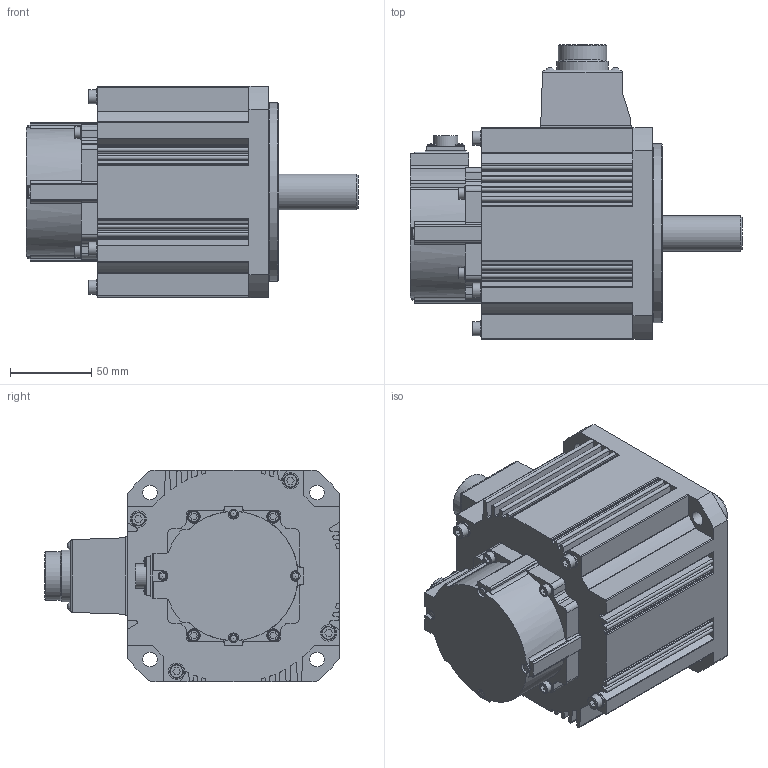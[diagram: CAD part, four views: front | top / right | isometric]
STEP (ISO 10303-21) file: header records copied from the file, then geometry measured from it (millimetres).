
FILE_DESCRIPTION( ( 'STEP AP214' ), '1' );
FILE_NAME( 'e:/temp/worker_119/temp/exporttempdir_4636_724_tQZoi/format_0/MDMF102L1D5.stp', '2022-04-08T06:37:52', ( 'License CC BY-ND 4.0' ), ( 'CADENAS' ), ' ', 'PARTsolutions', ' ' );
FILE_SCHEMA( ( 'AUTOMOTIVE_DESIGN { 1 0 10303 214 1 1 1 1 }' ) );
Length unit declared in the file: millimetre
Products named in the file (1): _MDMF102L1D5
Bounding box: 204 x 181 x 130 mm (x, y, z)
Volume: 1943470.5 mm3; surface area: 134172.4 mm2
Topology: 1 solids, 1 shells, 530 faces, 1434 edges, 934 vertices
Faces by surface type: plane 254, cylinder 227, cone 20, torus 13, sphere 12, bspline 4
Full cylindrical faces by diameter (mm): 7 x4, 8 x4, 8.5 x4, 9 x4, 10 x4, 14.8 x1, 22 x1, 29.75 x1, 31.9 x1, 34 x1, 38 x1, 45 x1, 102 x1, 110 x1
Entity records: 20676 total; most frequent: CARTESIAN_POINT 3133, DIRECTION 2862, ORIENTED_EDGE 2660, EDGE_CURVE 1330, AXIS2_PLACEMENT_3D 1037, VERTEX_POINT 916, LINE 788, VECTOR 788
